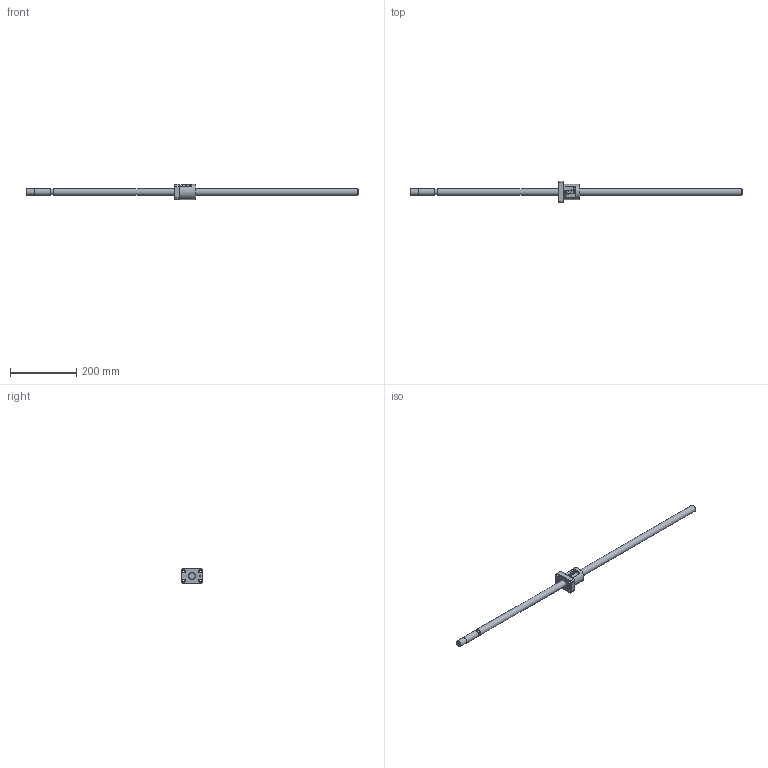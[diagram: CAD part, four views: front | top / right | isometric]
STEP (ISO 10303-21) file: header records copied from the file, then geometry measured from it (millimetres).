
FILE_DESCRIPTION (( 'STEP AP214' ), '1' );
FILE_NAME ('KBS(C)2010-1005.STEP', '2021-07-05T02:21:12', ( '' ), ( '' ), 'SwSTEP 2.0', 'SolidWorks 2019', '' );
FILE_SCHEMA (( 'AUTOMOTIVE_DESIGN' ));
Length unit declared in the file: millimetre
Products named in the file (3): KBS2010-1005; KBS2010; KBS(C)2010-1005
Assembly tree (2 placements, depth 2):
  KBS(C)2010-1005
    KBS2010-1005
    KBS2010
Bounding box: 1005 x 66 x 46 mm (x, y, z)
Volume: 413054.4 mm3; surface area: 86225.4 mm2
Topology: 2 solids, 2 shells, 103 faces, 259 edges, 171 vertices
Faces by surface type: plane 55, cylinder 40, cone 4, torus 4
Full cylindrical faces by diameter (mm): 4.8 x1, 5 x1, 6.6 x4, 7.4 x2, 11 x4, 16 x1, 19.5 x1, 20 x3, 22 x2, 46 x1
Entity records: 3295 total; most frequent: CARTESIAN_POINT 860, DIRECTION 464, ORIENTED_EDGE 448, EDGE_CURVE 224, AXIS2_PLACEMENT_3D 176, VERTEX_POINT 164, EDGE_LOOP 158, FACE_OUTER_BOUND 127
